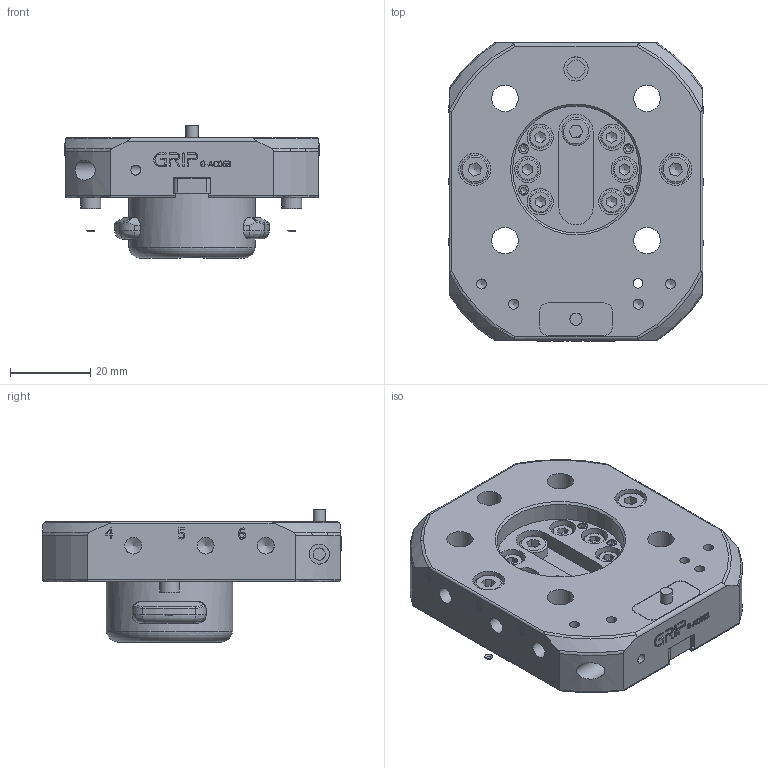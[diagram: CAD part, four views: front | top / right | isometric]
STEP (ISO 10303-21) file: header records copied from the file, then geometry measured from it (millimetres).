
FILE_DESCRIPTION(/* description */ (''),/* implementation_level */ '2;1');
FILE_NAME(/* name */ '3D G-AC063-2OEP_LT_Rev.1.03.stp',/* time_stamp */ '2026-03-24T10:43:28+01:00',/* author */ ('vbednarz'),/* organization */ (''),/* preprocessor_version */ 'ST-DEVELOPER v20.1',/* originating_system */ 'Autodesk Inventor 2026',/* authorisation */ '');
FILE_SCHEMA (('AUTOMOTIVE_DESIGN { 1 0 10303 214 3 1 1 }'));
Length unit declared in the file: millimetre
Products named in the file (1): G-AC063-2OEP
Bounding box: 63.4 x 74.2 x 32.9 mm (x, y, z)
Volume: 65075.2 mm3; surface area: 23905.6 mm2
Topology: 2 solids, 4 shells, 765 faces, 1920 edges, 1251 vertices
Faces by surface type: plane 340, cylinder 172, bspline 154, cone 63, torus 35, sphere 1
Full cylindrical faces by diameter (mm): 0.336 x1, 2.02 x4, 2.4 x1, 2.5 x11, 2.8 x1, 3 x3, 3.05 x1, 3.3 x1, 4 x11, 4.02 x1, 4.2 x6, 4.5 x3, 4.95 x2, 5 x1, 5.05 x1, 5.5 x6, 6 x3, 6.02 x3, 6.5 x6, 6.6 x4, 7 x3, 7.5 x8, 7.9 x8, 8 x2, 11 x4, 31.5 x1, 31.52 x1
Entity records: 26741 total; most frequent: CARTESIAN_POINT 8672, ORIENTED_EDGE 3780, DIRECTION 3102, EDGE_CURVE 1890, VERTEX_POINT 1251, AXIS2_PLACEMENT_3D 1071, LINE 960, VECTOR 960
